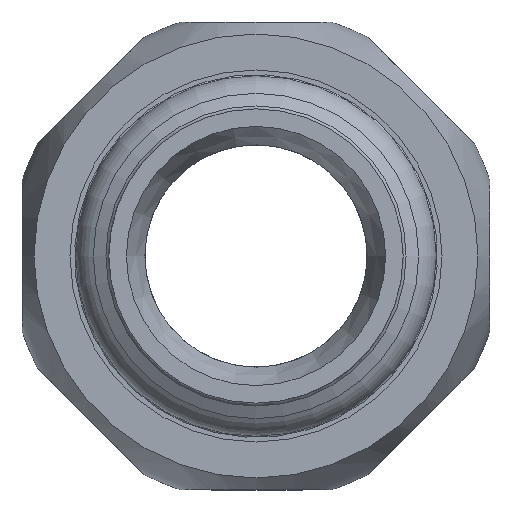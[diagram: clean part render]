
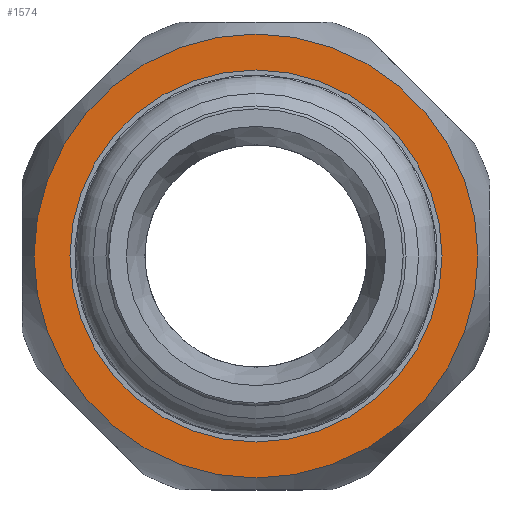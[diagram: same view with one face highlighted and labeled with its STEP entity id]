
A CAD part, left-side view. The second image highlights one B-rep face of the part: STEP entity #1574.
In plain terms, the highlighted planar face has unit normal (-1, 0, 0) as drawn and (0, 0, -1) by its records, which use the part's own axes.
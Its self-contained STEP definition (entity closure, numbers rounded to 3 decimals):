
#1418=CARTESIAN_POINT('',(18.974,0.0,0.0));
#1419=VERTEX_POINT('',#1418);
#1420=CARTESIAN_POINT('',(0.,0.0,0.0));
#1421=DIRECTION('',(0.0,0.0,-1.0));
#1422=DIRECTION('',(0.0,-1.0,0.0));
#1423=AXIS2_PLACEMENT_3D('',#1420,#1421,#1422);
#1424=CIRCLE('',#1423,18.974);
#1425=EDGE_CURVE('',#1419,#1419,#1424,.T.);
#1467=CARTESIAN_POINT('',(-15.9,0.0,0.0));
#1468=VERTEX_POINT('',#1467);
#1469=CARTESIAN_POINT('',(0.0,0.0,0.0));
#1470=DIRECTION('',(0.0,0.0,1.0));
#1471=DIRECTION('',(-1.0,0.0,0.0));
#1472=AXIS2_PLACEMENT_3D('',#1469,#1470,#1471);
#1473=CIRCLE('',#1472,15.9);
#1474=EDGE_CURVE('',#1468,#1468,#1473,.T.);
#1563=CARTESIAN_POINT('',(0.,0.,0.0));
#1564=DIRECTION('',(0.0,0.0,1.0));
#1565=DIRECTION('',(1.0,0.0,0.0));
#1566=AXIS2_PLACEMENT_3D('',#1563,#1564,#1565);
#1567=PLANE('',#1566);
#1568=ORIENTED_EDGE('',*,*,#1425,.T.);
#1569=EDGE_LOOP('',(#1568));
#1570=FACE_OUTER_BOUND('',#1569,.T.);
#1571=ORIENTED_EDGE('',*,*,#1474,.T.);
#1572=EDGE_LOOP('',(#1571));
#1573=FACE_BOUND('',#1572,.T.);
#1574=ADVANCED_FACE('',(#1570,#1573),#1567,.F.);
